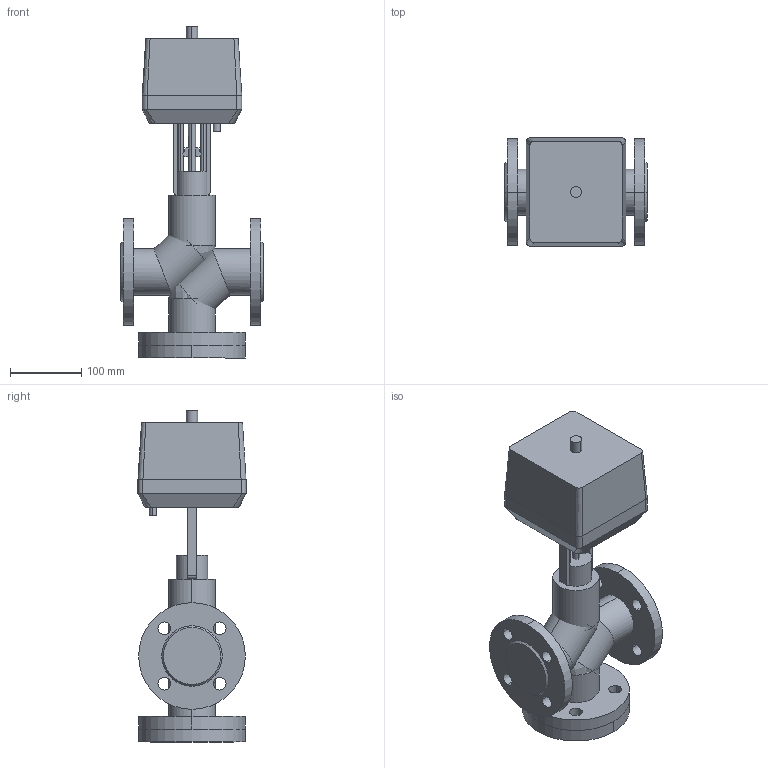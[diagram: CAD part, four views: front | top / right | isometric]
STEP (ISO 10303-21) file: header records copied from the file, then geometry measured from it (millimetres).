
FILE_DESCRIPTION(/* description */ (''),/* implementation_level */ '2;1');
FILE_NAME(/* name */ 'ТРК DN40 PN 2.5 МПа VTM-i 1000H',/* time_stamp */ '2026-07-14T23:23:24+03:00',/* author */ (''),/* organization */ (''),/* preprocessor_version */ 'ST-DEVELOPER v20',/* originating_system */ '',/* authorisation */ '');
FILE_SCHEMA (('AP242_MANAGED_MODEL_BASED_3D_ENGINEERING_MIM_LF { 1 0 10303 442 1 1 4 }'));
Length unit declared in the file: millimetre
Products named in the file (14): TopLevelAssembly; Выдавливание; Модификатор; Модификатор_1; Выдавливание_
1; Выдавливание_
2; Вращение; Выдавливание_
3; Выдавливание_
4; 1600; Переход; Объемная геометрия 
присоединена; Полый Выдавливание; Объемная геометрия 
присоединена_1
Assembly tree (13 placements, depth 2):
  TopLevelAssembly
    Выдавливание
    Модификатор
    Модификатор_1
    Выдавливание_
1
    Выдавливание_
2
    Вращение
    Выдавливание_
3
    Выдавливание_
4
    1600
    Переход
    Объемная геометрия 
присоединена
    Полый Выдавливание
    Объемная геометрия 
присоединена_1
Bounding box: 200 x 152 x 467 mm (x, y, z)
Volume: 4866622.7 mm3; surface area: 523130.2 mm2
Topology: 21 solids, 21 shells, 166 faces, 372 edges, 244 vertices
Faces by surface type: plane 78, cylinder 72, bspline 12, cone 4
Entity records: 5358 total; most frequent: CARTESIAN_POINT 1081, DIRECTION 906, ORIENTED_EDGE 728, EDGE_CURVE 364, AXIS2_PLACEMENT_3D 361, VERTEX_POINT 244, EDGE_LOOP 200, LINE 184
